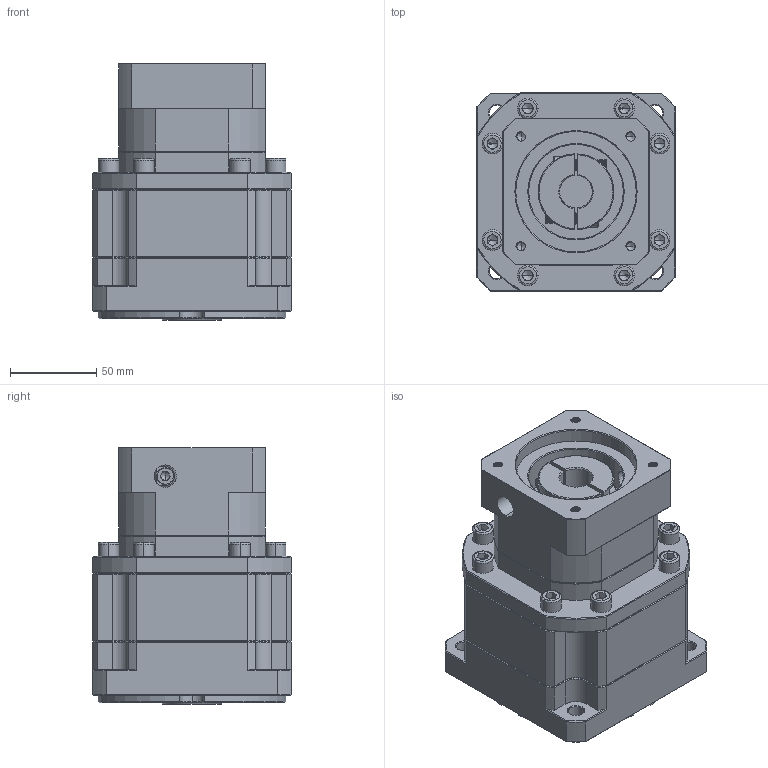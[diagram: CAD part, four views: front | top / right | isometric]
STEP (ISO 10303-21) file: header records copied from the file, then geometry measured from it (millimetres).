
FILE_DESCRIPTION (( 'STEP AP214' ), '1' );
FILE_NAME ('ZB115A-K25-L2-19-70-90-M6.step', '2023-03-03T09:58:04', ( '' ), ( 'Microsoft' ), 'SwSTEP 2.0', 'SolidWorks 2016', '' );
FILE_SCHEMA (( 'AUTOMOTIVE_DESIGN' ));
Length unit declared in the file: millimetre
Products named in the file (1): ZB115A-K25-L2-19-70-90-M6
Bounding box: 115 x 115 x 149 mm (x, y, z)
Volume: 1314350 mm3; surface area: 129816.7 mm2
Topology: 5 solids, 5 shells, 2050 faces, 5323 edges, 3367 vertices
Faces by surface type: plane 993, cylinder 387, bspline 335, cone 335
Entity records: 106241 total; most frequent: CARTESIAN_POINT 36346, ORIENTED_EDGE 10574, DIRECTION 8622, EDGE_CURVE 5287, VERTEX_POINT 3367, VECTOR 3348, LINE 3348, AXIS2_PLACEMENT_3D 2637
